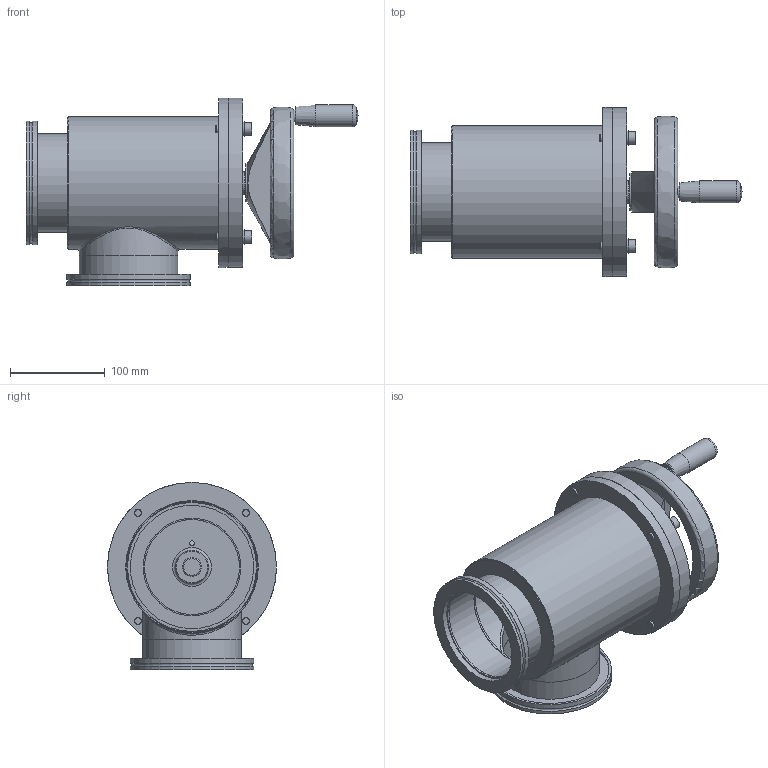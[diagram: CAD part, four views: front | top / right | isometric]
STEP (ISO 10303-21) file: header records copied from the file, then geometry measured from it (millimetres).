
FILE_DESCRIPTION(/* description */ (''),/* implementation_level */ '2;1');
FILE_NAME(/* name */ '1580176480_203.stp',/* time_stamp */ '2016-03-04T10:45:38+01:00',/* author */ (''),/* organization */ (''),/* preprocessor_version */ 'ST-DEVELOPER v15',/* originating_system */ 'SIEMENS PLM Software NX 9.0',/* authorisation */ '');
FILE_SCHEMA (('AP203_CONFIGURATION_CONTROLLED_3D_DESIGN_OF_MECHANICAL_PARTS_AND_ASSEMBLIES_MIM_LF { 1 0 10303 403 2 1 2}'));
Length unit declared in the file: millimetre
Products named in the file (17): 517238; 513742; 517224; 517223; 517222; 517221; 734301; 702829; 702832; 484832; n-6134-409.1; 224804.1; n-6135-407.1; 542259; 517218_MODEL; 522001_MODEL; 713965
Assembly tree (23 placements, depth 4):
  713965
    542259
    n-6135-407.1
    224804.1
    n-6134-409.1  x4
    484832  x4
    702832
    702829
    522001_MODEL
      517218_MODEL
        517221  x2
        517222
        517223
        517224
        513742
        517238
    734301
Bounding box: 349.5 x 178 x 197 mm (x, y, z)
Volume: 1097226.4 mm3; surface area: 412779 mm2
Topology: 23 solids, 23 shells, 283 faces, 590 edges, 385 vertices
Faces by surface type: plane 134, cylinder 102, cone 24, torus 19, bspline 3, sphere 1
Full cylindrical faces by diameter (mm): 4.96 x1, 5 x3, 6 x2, 6.4 x1, 6.8 x4, 7.906 x1, 8 x4, 8.4 x4, 9 x4, 10 x1, 13 x5, 13.925 x1, 14.945 x1, 15 x4, 15.6 x1, 18 x1, 19.2 x1, 20 x2, 20.1 x1, 21 x1, 23 x1, 23.983 x1, 24 x1, 24.1 x1, 24.5 x1, 26 x1, 31.769 x1, 34.3 x1, 35 x2, 40 x1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
Entity records: 9071 total; most frequent: CARTESIAN_POINT 1924, DIRECTION 964, ORIENTED_EDGE 674, AXIS2_PLACEMENT_3D 435, EDGE_LOOP 391, EDGE_CURVE 337, FACE_BOUND 328, VERTEX_POINT 278
